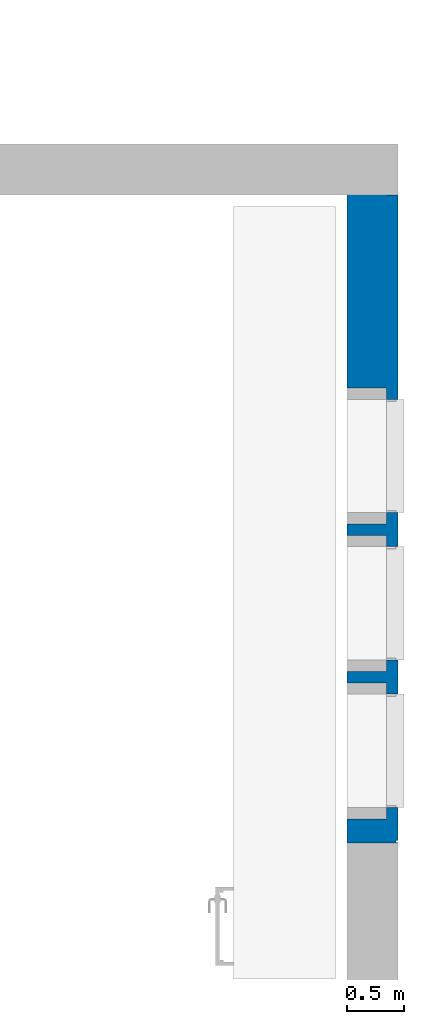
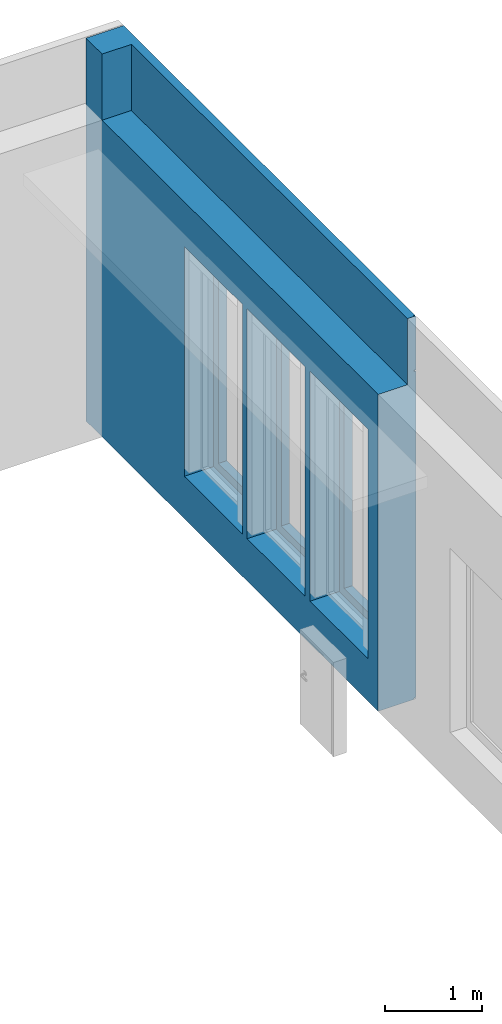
# One storey, part 27 of 33: 1 wall, 7 openings.
"""IFC2X3 building model written with IfcOpenShell, lengths in millimetres."""

from ifc_helpers import new_model, entity, si_unit, converted_unit, derived_unit, direction, frame, frame_2d, origin, place, context, subcontext, project, spatial, polyline, rectangle, extrude, clip, bounded_halfspace, faceted_brep, material, layer, layer_set, layer_usage, type_object, element, save


model = new_model("IFC2X3")

# Units and contexts
model_context = context("Model", 3, precision=0.01, world=origin(), true_north=direction((6.12303176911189e-17, 1.0)))
body_context = subcontext(model_context, "Body", "Model", "MODEL_VIEW")
ifc_project = project(units=[si_unit("LENGTHUNIT", "METRE", prefix="MILLI"), si_unit("AREAUNIT", "SQUARE_METRE"), si_unit("VOLUMEUNIT", "CUBIC_METRE"), converted_unit("PLANEANGLEUNIT", "DEGREE", entity("IfcRatioMeasure", 0.0174532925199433), si_unit("PLANEANGLEUNIT", "RADIAN"), dimensions=[0, 0, 0, 0, 0, 0, 0]), si_unit("MASSUNIT", "GRAM", prefix="KILO"), derived_unit("MASSDENSITYUNIT", [(si_unit("MASSUNIT", "GRAM", prefix="KILO"), 1), (si_unit("LENGTHUNIT", "METRE"), -3)]), si_unit("TIMEUNIT", "SECOND"), si_unit("FREQUENCYUNIT", "HERTZ"), si_unit("THERMODYNAMICTEMPERATUREUNIT", "DEGREE_CELSIUS"), derived_unit("THERMALTRANSMITTANCEUNIT", [(si_unit("MASSUNIT", "GRAM", prefix="KILO"), 1), (si_unit("THERMODYNAMICTEMPERATUREUNIT", "KELVIN"), -1), (si_unit("TIMEUNIT", "SECOND"), -3)]), derived_unit("VOLUMETRICFLOWRATEUNIT", [(si_unit("LENGTHUNIT", "METRE"), 3), (si_unit("TIMEUNIT", "SECOND"), -1)]), si_unit("ELECTRICCURRENTUNIT", "AMPERE"), si_unit("ELECTRICVOLTAGEUNIT", "VOLT"), si_unit("POWERUNIT", "WATT"), si_unit("FORCEUNIT", "NEWTON", prefix="KILO"), si_unit("ILLUMINANCEUNIT", "LUX"), si_unit("LUMINOUSFLUXUNIT", "LUMEN"), si_unit("LUMINOUSINTENSITYUNIT", "CANDELA"), derived_unit("USERDEFINED", [(si_unit("MASSUNIT", "GRAM", prefix="KILO"), -1), (si_unit("LENGTHUNIT", "METRE"), -2), (si_unit("TIMEUNIT", "SECOND"), 3), (si_unit("LUMINOUSFLUXUNIT", "LUMEN"), 1)]), derived_unit("LINEARVELOCITYUNIT", [(si_unit("LENGTHUNIT", "METRE"), 1), (si_unit("TIMEUNIT", "SECOND"), -1)]), si_unit("PRESSUREUNIT", "PASCAL"), derived_unit("USERDEFINED", [(si_unit("LENGTHUNIT", "METRE"), -2), (si_unit("MASSUNIT", "GRAM", prefix="KILO"), 1), (si_unit("TIMEUNIT", "SECOND"), -2)])], contexts=[model_context])

# Site, building, storey
site_placement = place(None, origin())
site = spatial("IfcSite", under=ifc_project, at=site_placement, Name="Default", CompositionType="ELEMENT")
building_placement = place(site_placement, origin())
building = spatial("IfcBuilding", under=site, at=building_placement, CompositionType="ELEMENT")
storey_placement = place(building_placement, frame((0.0, 0.0, 4000.0)))
storey = spatial("IfcBuildingStorey", under=building, at=storey_placement, Name="2. KORRUS", CompositionType="ELEMENT", Elevation=4000.0)

# Wall, openings
ifc_material_1 = material(Name="RECKLI 1 173 THUR by Polantis 2016-toon1")
ifc_layer_1 = layer(ifc_material_1, 100.0)
ifc_material_2 = material(Name="Soojusisolatsioon EPS")
ifc_layer_2 = layer(ifc_material_2, 200.0)
ifc_material_3 = material(Name="r/b")
ifc_layer_3 = layer(ifc_material_3, 150.0)
ifc_layer_set = layer_set([ifc_layer_1, ifc_layer_2, ifc_layer_3], Name="Basic Wall:VS-1_toon-d")
ifc_layer_usage = layer_usage(ifc_layer_set, "AXIS2", "NEGATIVE", 225.0)
wall_type = type_object("IfcWallType", Name="Basic Wall:VS-1_toon-d", PredefinedType="STANDARD", material=ifc_layer_set)
wall_placement = place(storey_placement, frame((39725.0, 21834.0, -135.0), z_axis=(0.0, 0.0, 1.0), x_axis=(0.0, -1.0, 0.0)))
wall = element("IfcWallStandardCase", 1, at=wall_placement, inside=storey, type_object=wall_type, material=ifc_layer_usage, Name="Basic Wall:VS-1_toon-d", ObjectType="Basic Wall:VS-1_toon-d", context=body_context, shape_type="Clipping", body=[
    clip(clip(extrude(rectangle(XDim=6044.00000000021, YDim=450.000000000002, at=frame_2d((3022.00000000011, 6.11066752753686e-13), x_axis=(-1.0, 0.0))), origin(), (0.0, 0.0, 1.0), 4835.0), bounded_halfspace(frame((333.948219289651, -225.0, 4000.0), z_axis=(0.0, 0.0, 1.0), x_axis=(0.0, 1.0, 0.0)), False, frame((333.948219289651, -225.0, 4000.0)), polyline([(0.0, 0.0), (5710.05178071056, 0.0), (5710.05178071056, 350.0), (0.0, 350.0), (0.0, 0.0)]))), bounded_halfspace(frame((333.948219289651, 125.0, 4000.0), z_axis=(0.0, 0.0, -1.0), x_axis=(1.0, 0.0, 0.0)), False, frame((333.948219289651, 125.0, 4000.0)), polyline([(0.0, 0.0), (0.0, 100.0), (-333.948219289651, 100.0), (-333.948219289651, 80.0), (-350.0, 80.0), (-350.0, 0.0), (0.0, 0.0)]))),
])
opening_1_placement = place(wall_placement, frame((22284.0, -40175.0, 4.0)))
element("IfcOpeningElement", 2, at=opening_1_placement, cuts=wall, Name="Basic Wall:VS-1_toon-d", ObjectType="Opening", context=body_context, shape_type="Brep", body=[
    faceted_brep([(-20.0, 11850.0, 16.0), (0.0, 11850.0, 16.0), (0.0, 11850.0, 0.0), (-20.0, 11850.0, 0.0), (-20.0, 4260.0, 16.0), (-20.0, 4260.0, 0.0), (0.0, 4260.0, 0.0), (0.0, 4260.0, 16.0)], [[[0, 1, 2, 3]], [[4, 5, 6, 7]], [[1, 0, 4, 7]], [[2, 1, 7, 6]], [[3, 2, 6, 5]], [[0, 3, 5, 4]]]),
    faceted_brep([(-28480.0, 20.0, 16.0), (-28480.0, 20.0, 0.0), (-28500.0, 0.0, 0.0), (-28500.0, 0.0, 16.0), (-23740.0, 20.0, 16.0), (-23740.0, 0.0, 16.0), (-23740.0, 0.0, 0.0), (-23740.0, 20.0, 0.0)], [[[0, 1, 2, 3]], [[4, 5, 6, 7]], [[1, 0, 4, 7]], [[2, 1, 7, 6]], [[3, 2, 6, 5]], [[0, 3, 5, 4]]]),
    faceted_brep([(-22380.0517807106, 10080.0, 16.0), (-22400.0517807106, 10100.0, 16.0), (-22400.0517807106, 10100.0, 0.0), (-22380.0517807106, 10080.0, 0.0), (-22380.0517807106, 15330.3475962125, 16.0), (-22380.0517807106, 15330.3475962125, 0.0), (-22400.0517807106, 15330.3475962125, 0.0), (-22400.0517807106, 15330.3475962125, 16.0)], [[[0, 1, 2, 3]], [[4, 5, 6, 7]], [[1, 0, 4, 7]], [[2, 1, 7, 6]], [[3, 2, 6, 5]], [[0, 3, 5, 4]]]),
    faceted_brep([(-28480.0, 20.0, 16.0), (-28500.0, 0.0, 16.0), (-28500.0, 0.0, 0.0), (-28480.0, 20.0, 0.0), (-28480.0, 4360.0, 16.0), (-28480.0, 4360.0, 0.0), (-28500.0, 4360.0, 0.0), (-28500.0, 4360.0, 16.0)], [[[0, 1, 2, 3]], [[4, 5, 6, 7]], [[1, 0, 4, 7]], [[2, 1, 7, 6]], [[3, 2, 6, 5]], [[0, 3, 5, 4]]]),
    faceted_brep([(-20.0, 40380.0, 16.0), (0.0, 40400.0, 16.0), (0.0, 40400.0, 0.0), (-20.0, 40380.0, 0.0), (-20.0, 35250.0, 16.0), (-20.0, 35250.0, 0.0), (0.0, 35250.0, 0.0), (0.0, 35250.0, 16.0)], [[[0, 1, 2, 3]], [[4, 5, 6, 7]], [[1, 0, 4, 7]], [[2, 1, 7, 6]], [[3, 2, 6, 5]], [[0, 3, 5, 4]]]),
    faceted_brep([(-22380.0517807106, 34420.1035702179, 16.0), (-22400.0517807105, 34420.1035702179, 16.0), (-22400.0517807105, 34420.1035702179, 0.0), (-22380.0517807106, 34420.1035702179, 0.0), (-22380.0517807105, 40380.0, 16.0), (-22380.0517807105, 40380.0, 0.0), (-22400.0517807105, 40400.0, 0.0), (-22400.0517807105, 40400.0, 16.0)], [[[0, 1, 2, 3]], [[4, 5, 6, 7]], [[1, 0, 4, 7]], [[2, 1, 7, 6]], [[3, 2, 6, 5]], [[0, 3, 5, 4]]]),
    faceted_brep([(-22380.0517807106, 29113.2161487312, 16.0), (-22400.0517807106, 29113.2161487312, 16.0), (-22400.0517807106, 29113.2161487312, 0.0), (-22380.0517807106, 29113.2161487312, 0.0), (-22380.0517807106, 34420.1035702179, 16.0), (-22380.0517807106, 34420.1035702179, 0.0), (-22400.0517807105, 34420.1035702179, 0.0), (-22400.0517807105, 34420.1035702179, 16.0)], [[[0, 1, 2, 3]], [[4, 5, 6, 7]], [[1, 0, 4, 7]], [[2, 1, 7, 6]], [[3, 2, 6, 5]], [[0, 3, 5, 4]]]),
    faceted_brep([(-28480.0, 10080.0, 16.0), (-28500.0, 10100.0, 16.0), (-28500.0, 10100.0, 0.0), (-28480.0, 10080.0, 0.0), (-22380.0517807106, 10080.0, 16.0), (-22380.0517807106, 10080.0, 0.0), (-22400.0517807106, 10100.0, 0.0), (-22400.0517807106, 10100.0, 16.0)], [[[0, 1, 2, 3]], [[4, 5, 6, 7]], [[1, 0, 4, 7]], [[2, 1, 7, 6]], [[3, 2, 6, 5]], [[0, 3, 5, 4]]]),
    faceted_brep([(-20.0, 4260.0, 16.0), (0.0, 4260.0, 16.0), (0.0, 4260.0, 0.0), (-20.0, 4260.0, 0.0), (-20.0, 0.0, 16.0), (-20.0, 0.0, 0.0), (0.0, 0.0, 0.0), (0.0, 0.0, 16.0)], [[[0, 1, 2, 3]], [[4, 5, 6, 7]], [[1, 0, 4, 7]], [[2, 1, 7, 6]], [[3, 2, 6, 5]], [[0, 3, 5, 4]]]),
    faceted_brep([(-4865.0, 40380.0, 16.0), (-4865.0, 40400.0, 16.0), (-4865.0, 40400.0, 0.0), (-4865.0, 40380.0, 0.0), (-20.0, 40380.0, 16.0), (-20.0, 40380.0, 0.0), (0.0, 40400.0, 0.0), (0.0, 40400.0, 16.0)], [[[0, 1, 2, 3]], [[4, 5, 6, 7]], [[1, 0, 4, 7]], [[2, 1, 7, 6]], [[3, 2, 6, 5]], [[0, 3, 5, 4]]]),
    faceted_brep([(-9093.33000000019, 40380.0, 16.0), (-9093.33000000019, 40400.0, 16.0), (-9093.33000000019, 40400.0, 0.0), (-9093.33000000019, 40380.0, 0.0), (-4865.0, 40380.0, 16.0), (-4865.0, 40380.0, 0.0), (-4865.0, 40400.0, 0.0), (-4865.0, 40400.0, 16.0)], [[[0, 1, 2, 3]], [[4, 5, 6, 7]], [[1, 0, 4, 7]], [[2, 1, 7, 6]], [[3, 2, 6, 5]], [[0, 3, 5, 4]]]),
    faceted_brep([(-13210.0, 40380.0, 16.0), (-13210.0, 40400.0, 16.0), (-13210.0, 40400.0, 0.0), (-13210.0, 40380.0, 0.0), (-9093.33000000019, 40380.0, 16.0), (-9093.33000000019, 40380.0, 0.0), (-9093.33000000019, 40400.0, 0.0), (-9093.33000000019, 40400.0, 16.0)], [[[0, 1, 2, 3]], [[4, 5, 6, 7]], [[1, 0, 4, 7]], [[2, 1, 7, 6]], [[3, 2, 6, 5]], [[0, 3, 5, 4]]]),
    faceted_brep([(-16240.0, 40380.0, 16.0), (-16240.0, 40400.0, 16.0), (-16240.0, 40400.0, 0.0), (-16240.0, 40380.0, 0.0), (-13210.0, 40380.0, 16.0), (-13210.0, 40380.0, 0.0), (-13210.0, 40400.0, 0.0), (-13210.0, 40400.0, 16.0)], [[[0, 1, 2, 3]], [[4, 5, 6, 7]], [[1, 0, 4, 7]], [[2, 1, 7, 6]], [[3, 2, 6, 5]], [[0, 3, 5, 4]]]),
    faceted_brep([(-22380.0517807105, 40380.0, 16.0), (-22400.0517807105, 40400.0, 16.0), (-22400.0517807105, 40400.0, 0.0), (-22380.0517807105, 40380.0, 0.0), (-16240.0, 40380.0, 16.0), (-16240.0, 40380.0, 0.0), (-16240.0, 40400.0, 0.0), (-16240.0, 40400.0, 16.0)], [[[0, 1, 2, 3]], [[4, 5, 6, 7]], [[1, 0, 4, 7]], [[2, 1, 7, 6]], [[3, 2, 6, 5]], [[0, 3, 5, 4]]]),
    faceted_brep([(-22380.0517807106, 22535.0, 16.0), (-22400.0517807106, 22535.0, 16.0), (-22400.0517807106, 22535.0, 0.0), (-22380.0517807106, 22535.0, 0.0), (-22380.0517807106, 29113.2161487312, 16.0), (-22380.0517807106, 29113.2161487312, 0.0), (-22400.0517807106, 29113.2161487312, 0.0), (-22400.0517807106, 29113.2161487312, 16.0)], [[[0, 1, 2, 3]], [[4, 5, 6, 7]], [[1, 0, 4, 7]], [[2, 1, 7, 6]], [[3, 2, 6, 5]], [[0, 3, 5, 4]]]),
    faceted_brep([(-22380.0517807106, 18703.3528910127, 16.0), (-22400.0517807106, 18703.3528910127, 16.0), (-22400.0517807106, 18703.3528910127, 0.0), (-22380.0517807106, 18703.3528910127, 0.0), (-22380.0517807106, 22535.0, 16.0), (-22380.0517807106, 22535.0, 0.0), (-22400.0517807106, 22535.0, 0.0), (-22400.0517807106, 22535.0, 16.0)], [[[0, 1, 2, 3]], [[4, 5, 6, 7]], [[1, 0, 4, 7]], [[2, 1, 7, 6]], [[3, 2, 6, 5]], [[0, 3, 5, 4]]]),
    faceted_brep([(-22380.0517807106, 15330.3475962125, 16.0), (-22400.0517807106, 15330.3475962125, 16.0), (-22400.0517807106, 15330.3475962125, 0.0), (-22380.0517807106, 15330.3475962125, 0.0), (-22380.0517807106, 18703.3528910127, 16.0), (-22380.0517807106, 18703.3528910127, 0.0), (-22400.0517807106, 18703.3528910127, 0.0), (-22400.0517807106, 18703.3528910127, 16.0)], [[[0, 1, 2, 3]], [[4, 5, 6, 7]], [[1, 0, 4, 7]], [[2, 1, 7, 6]], [[3, 2, 6, 5]], [[0, 3, 5, 4]]]),
    faceted_brep([(-28480.0, 4360.0, 16.0), (-28500.0, 4360.0, 16.0), (-28500.0, 4360.0, 0.0), (-28480.0, 4360.0, 0.0), (-28480.0, 10080.0, 16.0), (-28480.0, 10080.0, 0.0), (-28500.0, 10100.0, 0.0), (-28500.0, 10100.0, 16.0)], [[[0, 1, 2, 3]], [[4, 5, 6, 7]], [[1, 0, 4, 7]], [[2, 1, 7, 6]], [[3, 2, 6, 5]], [[0, 3, 5, 4]]]),
    faceted_brep([(-23740.0, 20.0, 16.0), (-23740.0, 20.0, 0.0), (-23740.0, 0.0, 0.0), (-23740.0, 0.0, 16.0), (-16890.0006972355, 20.0, 16.0), (-16890.0006972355, 0.0, 16.0), (-16890.0006972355, 0.0, 0.0), (-16890.0006972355, 20.0, 0.0)], [[[0, 1, 2, 3]], [[4, 5, 6, 7]], [[1, 0, 4, 7]], [[2, 1, 7, 6]], [[3, 2, 6, 5]], [[0, 3, 5, 4]]]),
    faceted_brep([(-16890.0006972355, 20.0, 16.0), (-16890.0006972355, 20.0, 0.0), (-16890.0006972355, 0.0, 0.0), (-16890.0006972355, 0.0, 16.0), (-13460.0, 20.0, 16.0), (-13460.0, 0.0, 16.0), (-13460.0, 0.0, 0.0), (-13460.0, 20.0, 0.0)], [[[0, 1, 2, 3]], [[4, 5, 6, 7]], [[1, 0, 4, 7]], [[2, 1, 7, 6]], [[3, 2, 6, 5]], [[0, 3, 5, 4]]]),
])
opening_2_placement = place(wall_placement, origin())
element("IfcOpeningElement", 3, at=opening_2_placement, cuts=wall, Name="Basic Wall:VS-1_toon-d", ObjectType="Recess", context=body_context, shape_type="SweptSolid", body=[
    extrude(rectangle(XDim=834.999999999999, YDim=16.0000000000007, at=frame_2d((0.0, -2.16626716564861e-12), x_axis=(1.0, 0.0))), frame((-8.0, 205.0, 4417.5), z_axis=(0.0, 1.0, 0.0), x_axis=(0.0, 0.0, 1.0)), (0.0, 0.0, 1.0), 20.0000000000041),
])
opening_3_placement = place(wall_placement, origin())
element("IfcOpeningElement", 4, at=opening_3_placement, cuts=wall, Name="Basic Wall:VS-1_toon-d", ObjectType="Recess", context=body_context, shape_type="SweptSolid", body=[
    extrude(rectangle(XDim=4265.0, YDim=16.0000000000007, at=frame_2d((0.0, 2.16626716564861e-12), x_axis=(1.0, 0.0))), frame((6031.99882276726, 205.0, -2132.5), z_axis=(0.0, 1.0, 0.0), x_axis=(0.0, 0.0, 1.0)), (0.0, 0.0, 1.0), 20.0000000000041),
    extrude(rectangle(XDim=4835.0, YDim=16.0000000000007, at=frame_2d((4.54747350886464e-13, 2.16626716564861e-12), x_axis=(1.0, 0.0))), frame((6031.99882276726, 205.0, 2417.5), z_axis=(0.0, 1.0, 0.0), x_axis=(0.0, 0.0, 1.0)), (0.0, 0.0, 1.0), 20.0000000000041),
])
opening_4_placement = place(wall_placement, origin())
element("IfcOpeningElement", 5, at=opening_4_placement, cuts=wall, Name="Basic Wall:VS-1_toon-d", ObjectType="Recess", context=body_context, shape_type="SweptSolid", body=[
    extrude(rectangle(XDim=15.9999999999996, YDim=20.0, at=frame_2d((-3.37507799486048e-14, 5.40900657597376e-13), x_axis=(0.0, 1.0))), frame((22274.0, -35915.0, 4147.0), z_axis=(0.0, 1.0, 0.0), x_axis=(1.0, 0.0, 0.0)), (0.0, 0.0, 1.0), 7590.0),
    extrude(rectangle(XDim=15.9999999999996, YDim=4660.0, at=frame_2d((-2.27373675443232e-12, 5.40900657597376e-13), x_axis=(0.0, 1.0))), frame((-3786.0, -40175.0, 4147.0), z_axis=(0.0, 1.0, 0.0), x_axis=(1.0, 0.0, 0.0)), (0.0, 0.0, 1.0), 20.0000000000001),
    extrude(rectangle(XDim=15.9999999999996, YDim=19.9999999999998, at=frame_2d((5.40900657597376e-13, -2.16626716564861e-12), x_axis=(1.0, 0.0))), frame((-106.051780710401, -30075.0, 4147.0), z_axis=(0.0, 1.0, 0.0), x_axis=(0.0, 0.0, -1.0)), (0.0, 0.0, 1.0), 5230.3475962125),
    extrude(rectangle(XDim=15.9999999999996, YDim=19.9999999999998, at=frame_2d((5.40900657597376e-13, -2.16626716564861e-12), x_axis=(1.0, 0.0))), frame((-6206.0, -40175.0, 4147.0), z_axis=(0.0, 1.0, 0.0), x_axis=(0.0, 0.0, -1.0)), (0.0, 0.0, 1.0), 4360.0),
    extrude(rectangle(XDim=15.9999999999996, YDim=20.0, at=frame_2d((-3.37507799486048e-14, -5.40900657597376e-13), x_axis=(0.0, 1.0))), frame((22274.0, -4925.0, 4147.0), z_axis=(0.0, 1.0, 0.0), x_axis=(1.0, 0.0, 0.0)), (0.0, 0.0, 1.0), 5050.0),
    extrude(rectangle(XDim=15.9999999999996, YDim=19.9999999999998, at=frame_2d((5.40900657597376e-13, -2.16626716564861e-12), x_axis=(1.0, 0.0))), frame((-106.051780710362, -5754.89642978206, 4147.0), z_axis=(0.0, 1.0, 0.0), x_axis=(0.0, 0.0, -1.0)), (0.0, 0.0, 1.0), 5979.89642978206),
    extrude(rectangle(XDim=15.9999999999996, YDim=19.9999999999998, at=frame_2d((5.40900657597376e-13, -2.16626716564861e-12), x_axis=(1.0, 0.0))), frame((-106.05178071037, -11061.7838512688, 4147.0), z_axis=(0.0, 1.0, 0.0), x_axis=(0.0, 0.0, -1.0)), (0.0, 0.0, 1.0), 5306.88742148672),
    extrude(rectangle(XDim=15.9999999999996, YDim=6099.94821928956, at=frame_2d((0.0, 0.0), x_axis=(0.0, 1.0))), frame((-3066.02589035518, -30095.0, 4147.0), z_axis=(0.0, 1.0, 0.0), x_axis=(1.0, 0.0, 0.0)), (0.0, 0.0, 1.0), 19.9999999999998),
    extrude(rectangle(XDim=15.9999999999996, YDim=20.0, at=frame_2d((-3.37507799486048e-14, 5.40900657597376e-13), x_axis=(0.0, 1.0))), frame((22274.0, -40075.0, 4147.0), z_axis=(0.0, 1.0, 0.0), x_axis=(1.0, 0.0, 0.0)), (0.0, 0.0, 1.0), 4160.00000000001),
    extrude(rectangle(XDim=15.9999999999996, YDim=4865.0, at=frame_2d((0.0, 5.40900657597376e-13), x_axis=(0.0, 1.0))), frame((19851.5000000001, 205.0, 4147.0), z_axis=(0.0, 1.0, 0.0), x_axis=(1.0, 0.0, 0.0)), (0.0, 0.0, 1.0), 20.0000000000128),
    extrude(rectangle(XDim=15.9999999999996, YDim=4228.33000000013, at=frame_2d((0.0, 0.0), x_axis=(0.0, 1.0))), frame((15304.8350000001, 205.0, 4147.0), z_axis=(0.0, 1.0, 0.0), x_axis=(1.0, 0.0, 0.0)), (0.0, 0.0, 1.0), 20.0000000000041),
    extrude(rectangle(XDim=15.9999999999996, YDim=4236.66999997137, at=frame_2d((1.13686837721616e-12, 0.0), x_axis=(0.0, 1.0))), frame((11072.3350000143, 205.0, 4147.0), z_axis=(0.0, 1.0, 0.0), x_axis=(1.0, 0.0, 0.0)), (0.0, 0.0, 1.0), 19.9999999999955),
    extrude(rectangle(XDim=15.9999999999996, YDim=2910.00000002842, at=frame_2d((2.1600499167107e-12, 5.40900657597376e-13), x_axis=(0.0, 1.0))), frame((7499.0, 205.0, 4147.0), z_axis=(0.0, 1.0, 0.0), x_axis=(1.0, 0.0, 0.0)), (0.0, 0.0, 1.0), 20.0000000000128),
    extrude(rectangle(XDim=15.9999999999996, YDim=6060.05178071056, at=frame_2d((0.0, 0.0), x_axis=(0.0, 1.0))), frame((3013.97410964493, 205.0, 4147.0), z_axis=(0.0, 1.0, 0.0), x_axis=(1.0, 0.0, 0.0)), (0.0, 0.0, 1.0), 19.9999999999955),
    extrude(rectangle(XDim=15.9999999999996, YDim=19.9999999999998, at=frame_2d((5.40900657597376e-13, -2.16626716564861e-12), x_axis=(1.0, 0.0))), frame((-106.051780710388, -21471.6471089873, 4147.0), z_axis=(0.0, 1.0, 0.0), x_axis=(0.0, 0.0, -1.0)), (0.0, 0.0, 1.0), 3831.64710898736),
    extrude(rectangle(XDim=15.9999999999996, YDim=19.9999999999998, at=frame_2d((5.40900657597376e-13, -2.16626716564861e-12), x_axis=(1.0, 0.0))), frame((-106.051780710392, -24844.6524037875, 4147.0), z_axis=(0.0, 1.0, 0.0), x_axis=(0.0, 0.0, -1.0)), (0.0, 0.0, 1.0), 3373.00529480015),
    extrude(rectangle(XDim=15.9999999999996, YDim=19.9999999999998, at=frame_2d((5.40900657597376e-13, 2.16626716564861e-12), x_axis=(1.0, 0.0))), frame((-6206.0, -35815.0, 4147.0), z_axis=(0.0, 1.0, 0.0), x_axis=(0.0, 0.0, -1.0)), (0.0, 0.0, 1.0), 5739.99999999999),
    extrude(rectangle(XDim=15.9999999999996, YDim=6849.99930276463, at=frame_2d((1.13686837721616e-12, 5.40900657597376e-13), x_axis=(0.0, 1.0))), frame((1968.99965138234, -40175.0, 4147.0), z_axis=(0.0, 1.0, 0.0), x_axis=(1.0, 0.0, 0.0)), (0.0, 0.0, 1.0), 20.0),
    extrude(rectangle(XDim=15.9999999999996, YDim=3430.00069726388, at=frame_2d((1.02318153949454e-12, 5.40900657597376e-13), x_axis=(0.0, 1.0))), frame((7108.99965139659, -40175.0, 4147.0), z_axis=(0.0, 1.0, 0.0), x_axis=(1.0, 0.0, 0.0)), (0.0, 0.0, 1.0), 20.0000000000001),
    extrude(rectangle(XDim=15.9999999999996, YDim=19.9999999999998, at=frame_2d((5.40900657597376e-13, -2.16626716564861e-12), x_axis=(1.0, 0.0))), frame((-106.051780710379, -17640.0, 4147.0), z_axis=(0.0, 1.0, 0.0), x_axis=(0.0, 0.0, -1.0)), (0.0, 0.0, 1.0), 6578.21614873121),
    extrude(rectangle(XDim=15.9999999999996, YDim=20.0, at=frame_2d((-3.37507799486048e-14, 5.40900657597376e-13), x_axis=(0.0, 1.0))), frame((22274.0, -28325.0, 4147.0), z_axis=(0.0, 1.0, 0.0), x_axis=(1.0, 0.0, 0.0)), (0.0, 0.0, 1.0), 4110.00000000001),
    extrude(rectangle(XDim=15.9999999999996, YDim=20.0, at=frame_2d((-3.37507799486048e-14, 5.40900657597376e-13), x_axis=(0.0, 1.0))), frame((22274.0, -24215.0, 4147.0), z_axis=(0.0, 1.0, 0.0), x_axis=(1.0, 0.0, 0.0)), (0.0, 0.0, 1.0), 4600.0),
    extrude(rectangle(XDim=15.9999999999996, YDim=20.0, at=frame_2d((3.37507799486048e-14, 5.40900657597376e-13), x_axis=(0.0, 1.0))), frame((22274.0, -19615.0, 4147.0), z_axis=(0.0, 1.0, 0.0), x_axis=(1.0, 0.0, 0.0)), (0.0, 0.0, 1.0), 4600.0),
    extrude(rectangle(XDim=15.9999999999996, YDim=20.0, at=frame_2d((3.37507799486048e-14, 5.40900657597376e-13), x_axis=(0.0, 1.0))), frame((22274.0, -15015.0, 4147.0), z_axis=(0.0, 1.0, 0.0), x_axis=(1.0, 0.0, 0.0)), (0.0, 0.0, 1.0), 5299.99999999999),
    extrude(rectangle(XDim=15.9999999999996, YDim=20.0, at=frame_2d((-3.37507799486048e-14, 5.40900657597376e-13), x_axis=(0.0, 1.0))), frame((22274.0, -9715.0, 4147.0), z_axis=(0.0, 1.0, 0.0), x_axis=(1.0, 0.0, 0.0)), (0.0, 0.0, 1.0), 4790.0),
    extrude(rectangle(XDim=15.9999999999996, YDim=4724.85920481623, at=frame_2d((6.82121026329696e-13, 5.40900657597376e-13), x_axis=(0.0, 1.0))), frame((11186.4296024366, -40175.0, 4147.0), z_axis=(0.0, 1.0, 0.0), x_axis=(1.0, 0.0, 0.0)), (0.0, 0.0, 1.0), 20.0000000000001),
    extrude(rectangle(XDim=15.9999999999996, YDim=8735.1407951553, at=frame_2d((0.0, 5.40900657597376e-13), x_axis=(0.0, 1.0))), frame((17916.4296024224, -40175.0, 4147.0), z_axis=(0.0, 1.0, 0.0), x_axis=(1.0, 0.0, 0.0)), (0.0, 0.0, 1.0), 20.0),
])
opening_5_placement = place(wall_placement, frame((5834.0, -225.0, 535.0), z_axis=(0.0, 0.0, 1.0), x_axis=(0.0, 1.0, 0.0)))
element("IfcOpeningElement", 6, at=opening_5_placement, cuts=wall, Name="Basic Wall:VS-1_toon-d", ObjectType="Opening", context=body_context, shape_type="Brep", body=[
    faceted_brep([(450.0, 100.0, 2800.0), (350.0, 100.0, 2800.0), (350.0, 100.0, 100.0), (450.0, 100.0, 100.0), (350.0, 1100.0, 2800.0), (350.0, 1100.0, 100.0), (350.0, 0.0, 2900.0), (350.0, 0.0, 0.0), (350.0, 1200.0, 0.0), (350.0, 1200.0, 2900.0), (0.0, 1200.0, 2900.0), (0.0, 1200.0, 0.0), (0.0, 0.0, 0.0), (0.0, 0.0, 2900.0), (450.0, 1100.0, 100.0), (450.0, 1100.0, 2800.0)], [[[0, 1, 2, 3]], [[1, 4, 5, 2], [6, 7, 8, 9]], [[10, 11, 12, 13]], [[14, 15, 0, 3]], [[3, 2, 5, 14]], [[15, 4, 1, 0]], [[14, 5, 4, 15]], [[6, 13, 12, 7]], [[8, 11, 10, 9]], [[9, 10, 13, 6]], [[7, 12, 11, 8]]], outer=[[True], [False, True], [True], [True], [True], [True], [True], [True], [True], [True], [True]]),
])
opening_6_placement = place(wall_placement, frame((4534.0, -225.0, 535.0), z_axis=(0.0, 0.0, 1.0), x_axis=(0.0, 1.0, 0.0)))
element("IfcOpeningElement", 7, at=opening_6_placement, cuts=wall, Name="Basic Wall:VS-1_toon-d", ObjectType="Opening", context=body_context, shape_type="Brep", body=[
    faceted_brep([(450.0, 100.0, 2800.0), (350.0, 100.0, 2800.0), (350.0, 100.0, 100.0), (450.0, 100.0, 100.0), (350.0, 1100.0, 2800.0), (350.0, 1100.0, 100.0), (350.0, 0.0, 2900.0), (350.0, 0.0, 0.0), (350.0, 1200.0, 0.0), (350.0, 1200.0, 2900.0), (0.0, 1200.0, 2900.0), (0.0, 1200.0, 0.0), (0.0, 0.0, 0.0), (0.0, 0.0, 2900.0), (450.0, 1100.0, 100.0), (450.0, 1100.0, 2800.0)], [[[0, 1, 2, 3]], [[1, 4, 5, 2], [6, 7, 8, 9]], [[10, 11, 12, 13]], [[14, 15, 0, 3]], [[3, 2, 5, 14]], [[15, 4, 1, 0]], [[14, 5, 4, 15]], [[6, 13, 12, 7]], [[8, 11, 10, 9]], [[9, 10, 13, 6]], [[7, 12, 11, 8]]], outer=[[True], [False, True], [True], [True], [True], [True], [True], [True], [True], [True], [True]]),
])
opening_7_placement = place(wall_placement, frame((3234.0, -225.0, 535.0), z_axis=(0.0, 0.0, 1.0), x_axis=(0.0, 1.0, 0.0)))
element("IfcOpeningElement", 8, at=opening_7_placement, cuts=wall, Name="Basic Wall:VS-1_toon-d", ObjectType="Opening", context=body_context, shape_type="Brep", body=[
    faceted_brep([(450.0, 100.0, 2800.0), (350.0, 100.0, 2800.0), (350.0, 100.0, 100.0), (450.0, 100.0, 100.0), (350.0, 1100.0, 2800.0), (350.0, 1100.0, 100.0), (350.0, 0.0, 2900.0), (350.0, 0.0, 0.0), (350.0, 1200.0, 0.0), (350.0, 1200.0, 2900.0), (0.0, 1200.0, 2900.0), (0.0, 1200.0, 0.0), (0.0, 0.0, 0.0), (0.0, 0.0, 2900.0), (450.0, 1100.0, 100.0), (450.0, 1100.0, 2800.0)], [[[0, 1, 2, 3]], [[1, 4, 5, 2], [6, 7, 8, 9]], [[10, 11, 12, 13]], [[14, 15, 0, 3]], [[3, 2, 5, 14]], [[15, 4, 1, 0]], [[14, 5, 4, 15]], [[6, 13, 12, 7]], [[8, 11, 10, 9]], [[9, 10, 13, 6]], [[7, 12, 11, 8]]], outer=[[True], [False, True], [True], [True], [True], [True], [True], [True], [True], [True], [True]]),
])

save(model, "model.ifc")
